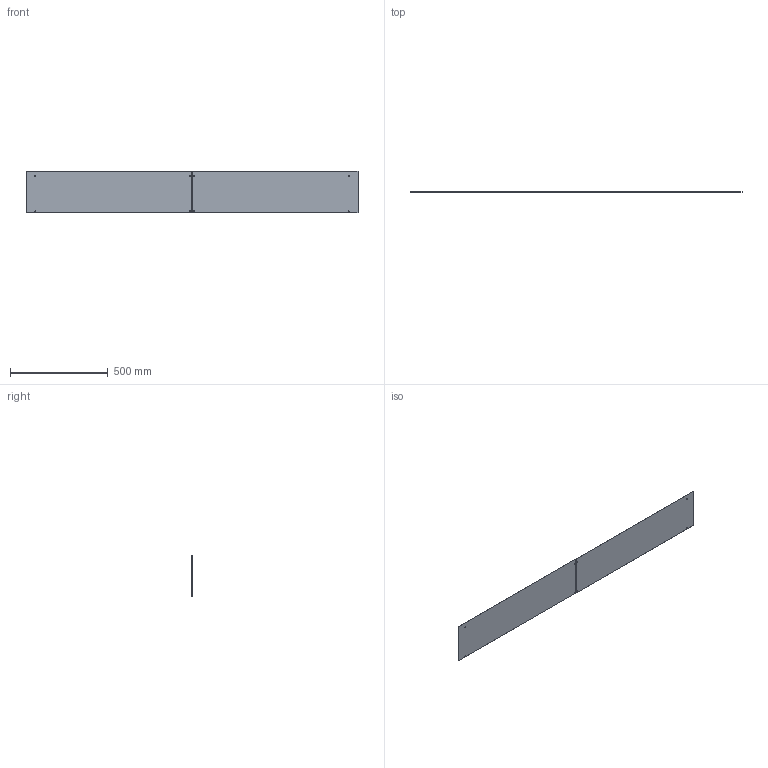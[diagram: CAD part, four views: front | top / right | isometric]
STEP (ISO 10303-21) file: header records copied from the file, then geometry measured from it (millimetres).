
FILE_DESCRIPTION(/* description */ (''),/* implementation_level */ '2;1');
FILE_NAME(/* name */ '14.frame-panels#14.2#HFPAL-3-847-213',/* time_stamp */ '2014-12-01T20:20:02+01:00',/* author */ (''),/* organization */ (''),/* preprocessor_version */ 'ST-DEVELOPER v14',/* originating_system */ '',/* authorisation */ '');
FILE_SCHEMA (('AUTOMOTIVE_DESIGN'));
Length unit declared in the file: millimetre
Products named in the file (1): Document
Bounding box: 1696 x 1 x 213 mm (x, y, z)
Volume: 360664.4 mm3; surface area: 725694.6 mm2
Topology: 2 solids, 2 shells, 28 faces, 72 edges, 48 vertices
Faces by surface type: bspline 16, plane 12
Entity records: 1931 total; most frequent: CARTESIAN_POINT 974, ORIENTED_EDGE 144, PCURVE 144, DEFINITIONAL_REPRESENTATION 144, B_SPLINE_CURVE_WITH_KNOTS 136, SURFACE_CURVE 72, EDGE_CURVE 72, VERTEX_POINT 48
